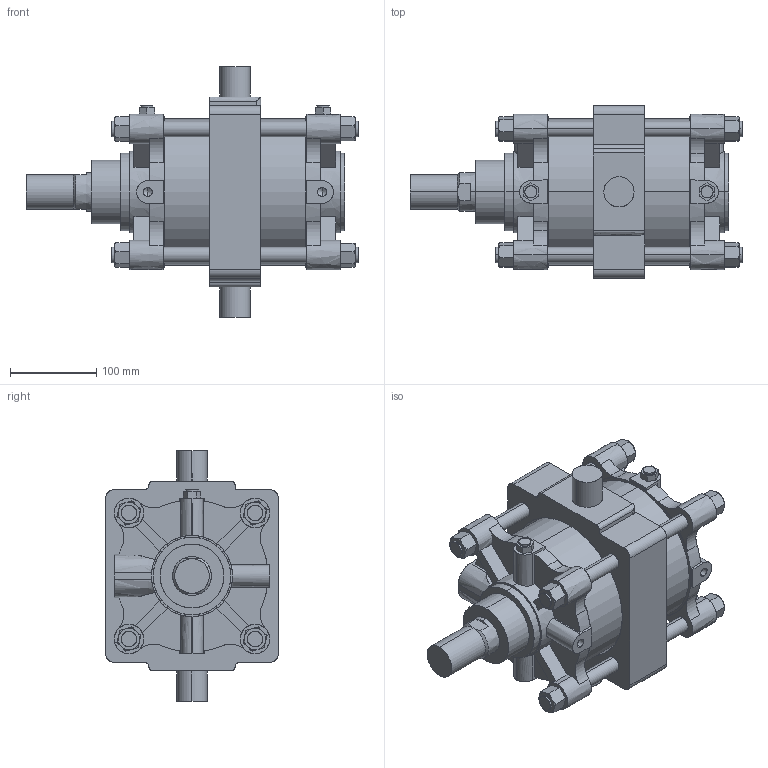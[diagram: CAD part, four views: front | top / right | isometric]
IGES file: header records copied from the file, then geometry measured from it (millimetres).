
Start section: SolidWorks IGES file using analytic representation for surfaces
Global section: file name: C:\Users\Toshiba\Desktop\A##2-160#-100-T.IGS; native system: SolidWorks 2014; preprocessor: SolidWorks 2014; author: Toshiba; date: 160331.145628; units: millimetre
Bounding box: 384.5 x 200 x 290 mm (x, y, z)
Surface area: 601589.1 mm2 (no closed solid volume)
Topology: 0 solids, 0 shells, 423 faces, 8092 edges, 8080 vertices
Faces by surface type: bspline 259, revolution 164
